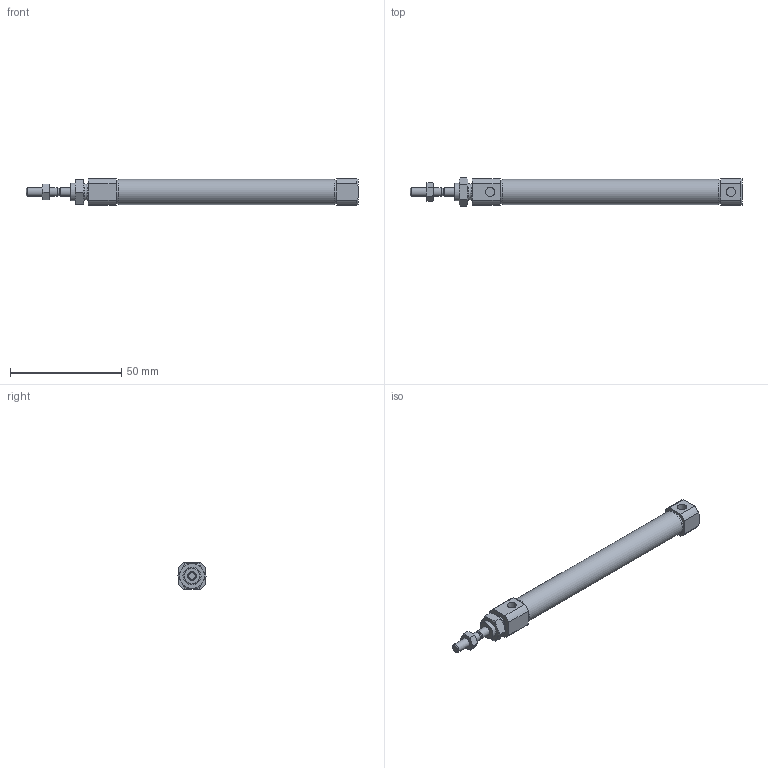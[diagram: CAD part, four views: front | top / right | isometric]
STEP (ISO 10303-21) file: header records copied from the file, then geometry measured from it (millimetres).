
FILE_DESCRIPTION((''),'2;1');
FILE_NAME('I:\3D電子目錄\氣缸\SBA\SBA\SBA10\SBA10x75.stp','2007-10-04T11:40:52',('66-2f-008'),(''),'Autodesk Inventor 11','Autodesk Inventor 11','');
FILE_SCHEMA(('AUTOMOTIVE_DESIGN { 1 0 10303 214 1 1 1 1 }'));
Length unit declared in the file: millimetre
Products named in the file (1): SBA10
Bounding box: 149 x 12.7 x 12 mm (x, y, z)
Volume: 13642.8 mm3; surface area: 5680.2 mm2
Topology: 1 solids, 1 shells, 88 faces, 186 edges, 113 vertices
Faces by surface type: plane 35, cone 30, cylinder 18, bspline 5
Full cylindrical faces by diameter (mm): 3.2 x1, 4 x3, 8 x3, 10.7 x2, 11.3 x1
Entity records: 2337 total; most frequent: CARTESIAN_POINT 609, DIRECTION 352, ORIENTED_EDGE 342, EDGE_CURVE 171, AXIS2_PLACEMENT_3D 153, EDGE_LOOP 116, VERTEX_POINT 113, FACE_OUTER_BOUND 88
